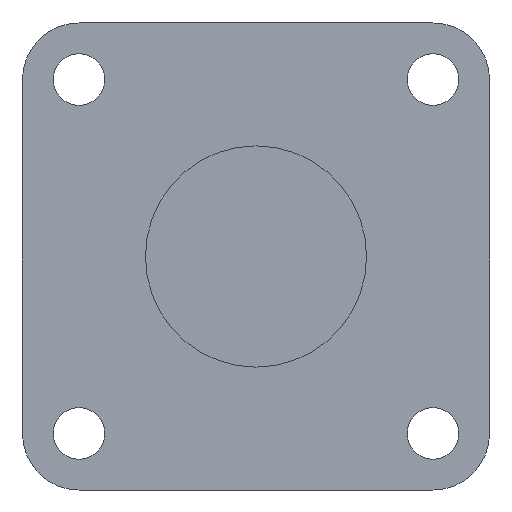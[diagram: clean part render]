
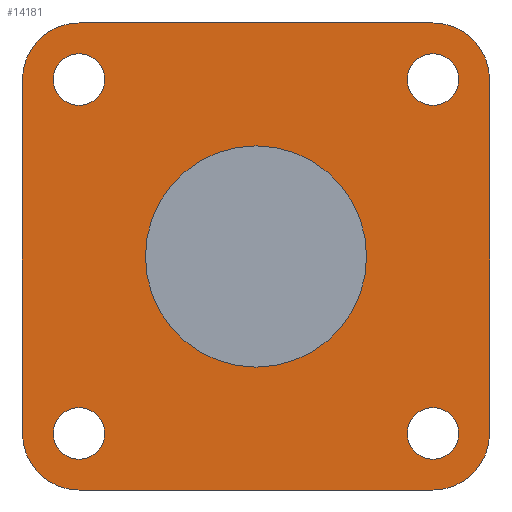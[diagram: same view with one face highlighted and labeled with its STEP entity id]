
A CAD part, left-side view. The second image highlights one B-rep face of the part: STEP entity #14181.
In plain terms, the highlighted planar face has unit normal (-1, 0, 0).
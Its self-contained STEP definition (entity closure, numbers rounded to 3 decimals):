
#12617=CARTESIAN_POINT('Line Origine',(-13.,0.,47.5)) ;
#12621=CARTESIAN_POINT('Vertex',(-13.,36.,47.5)) ;
#12623=CARTESIAN_POINT('Vertex',(-13.,-36.,47.5)) ;
#13372=CARTESIAN_POINT('Vertex',(-13.,-30.75,36.)) ;
#13375=CARTESIAN_POINT('Axis2P3D Location',(-13.,-36.,36.)) ;
#13379=CARTESIAN_POINT('Vertex',(-13.,-41.25,36.)) ;
#13394=CARTESIAN_POINT('Axis2P3D Location',(-13.,-36.,36.)) ;
#13415=CARTESIAN_POINT('Vertex',(-13.,-30.75,-36.)) ;
#13418=CARTESIAN_POINT('Axis2P3D Location',(-13.,-36.,-36.)) ;
#13422=CARTESIAN_POINT('Vertex',(-13.,-41.25,-36.)) ;
#13437=CARTESIAN_POINT('Axis2P3D Location',(-13.,-36.,-36.)) ;
#13458=CARTESIAN_POINT('Vertex',(-13.,30.75,-36.)) ;
#13461=CARTESIAN_POINT('Axis2P3D Location',(-13.,36.,-36.)) ;
#13465=CARTESIAN_POINT('Vertex',(-13.,41.25,-36.)) ;
#13480=CARTESIAN_POINT('Axis2P3D Location',(-13.,36.,-36.)) ;
#13501=CARTESIAN_POINT('Vertex',(-13.,30.75,36.)) ;
#13504=CARTESIAN_POINT('Axis2P3D Location',(-13.,36.,36.)) ;
#13508=CARTESIAN_POINT('Vertex',(-13.,41.25,36.)) ;
#13523=CARTESIAN_POINT('Axis2P3D Location',(-13.,36.,36.)) ;
#13732=CARTESIAN_POINT('Axis2P3D Location',(-13.,36.,36.)) ;
#13736=CARTESIAN_POINT('Vertex',(-13.,47.5,36.)) ;
#13756=CARTESIAN_POINT('Axis2P3D Location',(-13.,-36.,36.)) ;
#13760=CARTESIAN_POINT('Vertex',(-13.,-47.5,36.)) ;
#13787=CARTESIAN_POINT('Line Origine',(-13.,-47.5,0.)) ;
#13791=CARTESIAN_POINT('Vertex',(-13.,-47.5,-36.)) ;
#13845=CARTESIAN_POINT('Axis2P3D Location',(-13.,-36.,-36.)) ;
#13849=CARTESIAN_POINT('Vertex',(-13.,-36.,-47.5)) ;
#13869=CARTESIAN_POINT('Line Origine',(-13.,0.,-47.5)) ;
#13873=CARTESIAN_POINT('Vertex',(-13.,36.,-47.5)) ;
#13897=CARTESIAN_POINT('Vertex',(-13.,-22.5,0.)) ;
#13902=CARTESIAN_POINT('Axis2P3D Location',(-13.,0.,0.)) ;
#13906=CARTESIAN_POINT('Vertex',(-13.,22.5,0.)) ;
#13928=CARTESIAN_POINT('Axis2P3D Location',(-13.,0.,0.)) ;
#14122=CARTESIAN_POINT('Axis2P3D Location',(-13.,36.,-36.)) ;
#14126=CARTESIAN_POINT('Vertex',(-13.,47.5,-36.)) ;
#14141=CARTESIAN_POINT('Axis2P3D Location',(-13.,0.,0.)) ;
#14146=CARTESIAN_POINT('Line Origine',(-13.,47.5,0.)) ;
#12618=DIRECTION('Vector Direction',(0.,1.,0.)) ;
#13376=DIRECTION('Axis2P3D Direction',(1.,0.,0.)) ;
#13395=DIRECTION('Axis2P3D Direction',(1.,0.,0.)) ;
#13419=DIRECTION('Axis2P3D Direction',(1.,0.,0.)) ;
#13438=DIRECTION('Axis2P3D Direction',(1.,0.,0.)) ;
#13462=DIRECTION('Axis2P3D Direction',(1.,0.,0.)) ;
#13481=DIRECTION('Axis2P3D Direction',(1.,0.,0.)) ;
#13505=DIRECTION('Axis2P3D Direction',(1.,0.,0.)) ;
#13524=DIRECTION('Axis2P3D Direction',(1.,0.,0.)) ;
#13733=DIRECTION('Axis2P3D Direction',(1.,0.,0.)) ;
#13757=DIRECTION('Axis2P3D Direction',(1.,0.,0.)) ;
#13788=DIRECTION('Vector Direction',(0.,0.,-1.)) ;
#13846=DIRECTION('Axis2P3D Direction',(1.,0.,0.)) ;
#13870=DIRECTION('Vector Direction',(0.,-1.,0.)) ;
#13903=DIRECTION('Axis2P3D Direction',(-1.,-0.,0.)) ;
#13929=DIRECTION('Axis2P3D Direction',(-1.,-0.,0.)) ;
#14123=DIRECTION('Axis2P3D Direction',(1.,0.,0.)) ;
#14142=DIRECTION('Axis2P3D Direction',(1.,0.,0.)) ;
#14143=DIRECTION('Axis2P3D XDirection',(0.,1.,0.)) ;
#14147=DIRECTION('Vector Direction',(0.,0.,1.)) ;
#13377=AXIS2_PLACEMENT_3D('Circle Axis2P3D',#13375,#13376,$) ;
#13396=AXIS2_PLACEMENT_3D('Circle Axis2P3D',#13394,#13395,$) ;
#13420=AXIS2_PLACEMENT_3D('Circle Axis2P3D',#13418,#13419,$) ;
#13439=AXIS2_PLACEMENT_3D('Circle Axis2P3D',#13437,#13438,$) ;
#13463=AXIS2_PLACEMENT_3D('Circle Axis2P3D',#13461,#13462,$) ;
#13482=AXIS2_PLACEMENT_3D('Circle Axis2P3D',#13480,#13481,$) ;
#13506=AXIS2_PLACEMENT_3D('Circle Axis2P3D',#13504,#13505,$) ;
#13525=AXIS2_PLACEMENT_3D('Circle Axis2P3D',#13523,#13524,$) ;
#13734=AXIS2_PLACEMENT_3D('Circle Axis2P3D',#13732,#13733,$) ;
#13758=AXIS2_PLACEMENT_3D('Circle Axis2P3D',#13756,#13757,$) ;
#13847=AXIS2_PLACEMENT_3D('Circle Axis2P3D',#13845,#13846,$) ;
#13904=AXIS2_PLACEMENT_3D('Circle Axis2P3D',#13902,#13903,$) ;
#13930=AXIS2_PLACEMENT_3D('Circle Axis2P3D',#13928,#13929,$) ;
#14124=AXIS2_PLACEMENT_3D('Circle Axis2P3D',#14122,#14123,$) ;
#14144=AXIS2_PLACEMENT_3D('Plane Axis2P3D',#14141,#14142,#14143) ;
#14152=ORIENTED_EDGE('',*,*,#12625,.F.) ;
#14153=ORIENTED_EDGE('',*,*,#13738,.F.) ;
#14154=ORIENTED_EDGE('',*,*,#14150,.F.) ;
#14155=ORIENTED_EDGE('',*,*,#14128,.F.) ;
#14156=ORIENTED_EDGE('',*,*,#13875,.F.) ;
#14157=ORIENTED_EDGE('',*,*,#13851,.F.) ;
#14158=ORIENTED_EDGE('',*,*,#13793,.F.) ;
#14159=ORIENTED_EDGE('',*,*,#13762,.F.) ;
#14162=ORIENTED_EDGE('',*,*,#13932,.F.) ;
#14163=ORIENTED_EDGE('',*,*,#13908,.F.) ;
#14166=ORIENTED_EDGE('',*,*,#13398,.T.) ;
#14167=ORIENTED_EDGE('',*,*,#13381,.T.) ;
#14170=ORIENTED_EDGE('',*,*,#13441,.T.) ;
#14171=ORIENTED_EDGE('',*,*,#13424,.T.) ;
#14174=ORIENTED_EDGE('',*,*,#13484,.T.) ;
#14175=ORIENTED_EDGE('',*,*,#13467,.T.) ;
#14178=ORIENTED_EDGE('',*,*,#13527,.T.) ;
#14179=ORIENTED_EDGE('',*,*,#13510,.T.) ;
#14164=FACE_BOUND('',#14161,.T.) ;
#14168=FACE_BOUND('',#14165,.T.) ;
#14172=FACE_BOUND('',#14169,.T.) ;
#14176=FACE_BOUND('',#14173,.T.) ;
#14180=FACE_BOUND('',#14177,.T.) ;
#12619=VECTOR('Line Direction',#12618,1.) ;
#13789=VECTOR('Line Direction',#13788,1.) ;
#13871=VECTOR('Line Direction',#13870,1.) ;
#14148=VECTOR('Line Direction',#14147,1.) ;
#14181=ADVANCED_FACE('PartBody',(#14160,#14164,#14168,#14172,#14176,#14180),#14145,.F.) ;
#13378=CIRCLE('generated circle',#13377,5.25) ;
#13397=CIRCLE('generated circle',#13396,5.25) ;
#13421=CIRCLE('generated circle',#13420,5.25) ;
#13440=CIRCLE('generated circle',#13439,5.25) ;
#13464=CIRCLE('generated circle',#13463,5.25) ;
#13483=CIRCLE('generated circle',#13482,5.25) ;
#13507=CIRCLE('generated circle',#13506,5.25) ;
#13526=CIRCLE('generated circle',#13525,5.25) ;
#13735=CIRCLE('generated circle',#13734,11.5) ;
#13759=CIRCLE('generated circle',#13758,11.5) ;
#13848=CIRCLE('generated circle',#13847,11.5) ;
#13905=CIRCLE('generated circle',#13904,22.5) ;
#13931=CIRCLE('generated circle',#13930,22.5) ;
#14125=CIRCLE('generated circle',#14124,11.5) ;
#12625=EDGE_CURVE('',#12622,#12624,#12620,.F.) ;
#13381=EDGE_CURVE('',#13380,#13373,#13378,.T.) ;
#13398=EDGE_CURVE('',#13373,#13380,#13397,.T.) ;
#13424=EDGE_CURVE('',#13423,#13416,#13421,.T.) ;
#13441=EDGE_CURVE('',#13416,#13423,#13440,.T.) ;
#13467=EDGE_CURVE('',#13466,#13459,#13464,.T.) ;
#13484=EDGE_CURVE('',#13459,#13466,#13483,.T.) ;
#13510=EDGE_CURVE('',#13509,#13502,#13507,.T.) ;
#13527=EDGE_CURVE('',#13502,#13509,#13526,.T.) ;
#13738=EDGE_CURVE('',#13737,#12622,#13735,.T.) ;
#13762=EDGE_CURVE('',#12624,#13761,#13759,.T.) ;
#13793=EDGE_CURVE('',#13761,#13792,#13790,.T.) ;
#13851=EDGE_CURVE('',#13792,#13850,#13848,.T.) ;
#13875=EDGE_CURVE('',#13850,#13874,#13872,.F.) ;
#13908=EDGE_CURVE('',#13898,#13907,#13905,.T.) ;
#13932=EDGE_CURVE('',#13907,#13898,#13931,.T.) ;
#14128=EDGE_CURVE('',#13874,#14127,#14125,.T.) ;
#14150=EDGE_CURVE('',#14127,#13737,#14149,.T.) ;
#14151=EDGE_LOOP('',(#14152,#14153,#14154,#14155,#14156,#14157,#14158,#14159)) ;
#14161=EDGE_LOOP('',(#14162,#14163)) ;
#14165=EDGE_LOOP('',(#14166,#14167)) ;
#14169=EDGE_LOOP('',(#14170,#14171)) ;
#14173=EDGE_LOOP('',(#14174,#14175)) ;
#14177=EDGE_LOOP('',(#14178,#14179)) ;
#14160=FACE_OUTER_BOUND('',#14151,.T.) ;
#12620=LINE('Line',#12617,#12619) ;
#13790=LINE('Line',#13787,#13789) ;
#13872=LINE('Line',#13869,#13871) ;
#14149=LINE('Line',#14146,#14148) ;
#14145=PLANE('',#14144) ;
#12622=VERTEX_POINT('',#12621) ;
#12624=VERTEX_POINT('',#12623) ;
#13373=VERTEX_POINT('',#13372) ;
#13380=VERTEX_POINT('',#13379) ;
#13416=VERTEX_POINT('',#13415) ;
#13423=VERTEX_POINT('',#13422) ;
#13459=VERTEX_POINT('',#13458) ;
#13466=VERTEX_POINT('',#13465) ;
#13502=VERTEX_POINT('',#13501) ;
#13509=VERTEX_POINT('',#13508) ;
#13737=VERTEX_POINT('',#13736) ;
#13761=VERTEX_POINT('',#13760) ;
#13792=VERTEX_POINT('',#13791) ;
#13850=VERTEX_POINT('',#13849) ;
#13874=VERTEX_POINT('',#13873) ;
#13898=VERTEX_POINT('',#13897) ;
#13907=VERTEX_POINT('',#13906) ;
#14127=VERTEX_POINT('',#14126) ;
